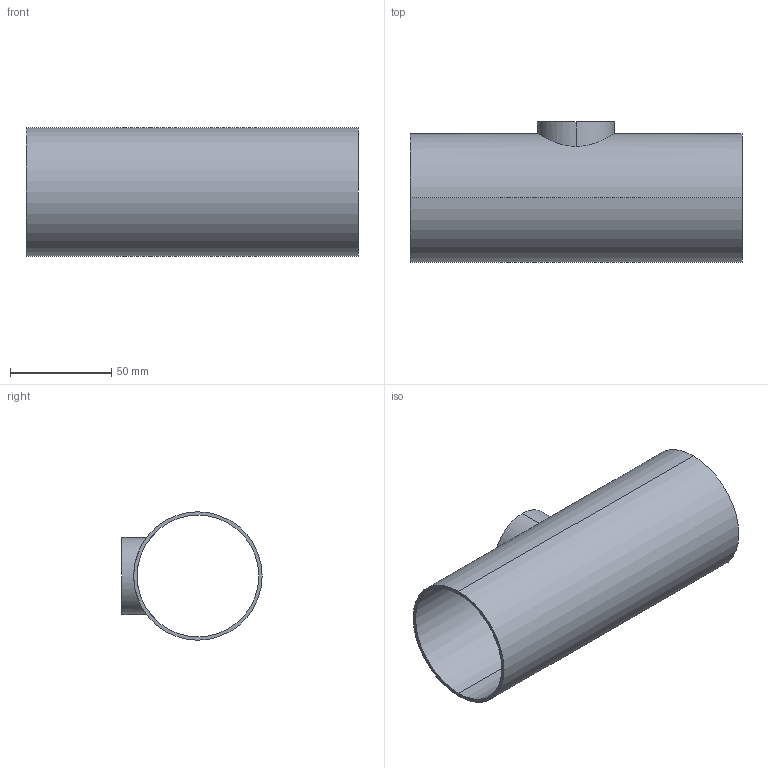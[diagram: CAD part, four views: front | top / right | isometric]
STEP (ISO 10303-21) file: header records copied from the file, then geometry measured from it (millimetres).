
FILE_DESCRIPTION (( 'STEP AP214' ), '1' );
FILE_NAME ('TEG7RS6L2.5x1.5-...STEP', '2016-05-24T09:39:10', ( 'eran' ), ( '' ), 'SwSTEP 2.0', 'SolidWorks 2016', '' );
FILE_SCHEMA (( 'AUTOMOTIVE_DESIGN' ));
Length unit declared in the file: millimetre
Products named in the file (1): TEG7RS6L2.5x1.5-..
Bounding box: 164.2 x 69.35 x 63.5 mm (x, y, z)
Volume: 52639.9 mm3; surface area: 64628.6 mm2
Topology: 1 solids, 1 shells, 11 faces, 24 edges, 16 vertices
Faces by surface type: cylinder 8, plane 3
Entity records: 556 total; most frequent: CARTESIAN_POINT 264, DIRECTION 56, ORIENTED_EDGE 48, AXIS2_PLACEMENT_3D 24, EDGE_CURVE 24, EDGE_LOOP 16, VERTEX_POINT 16, CIRCLE 12
